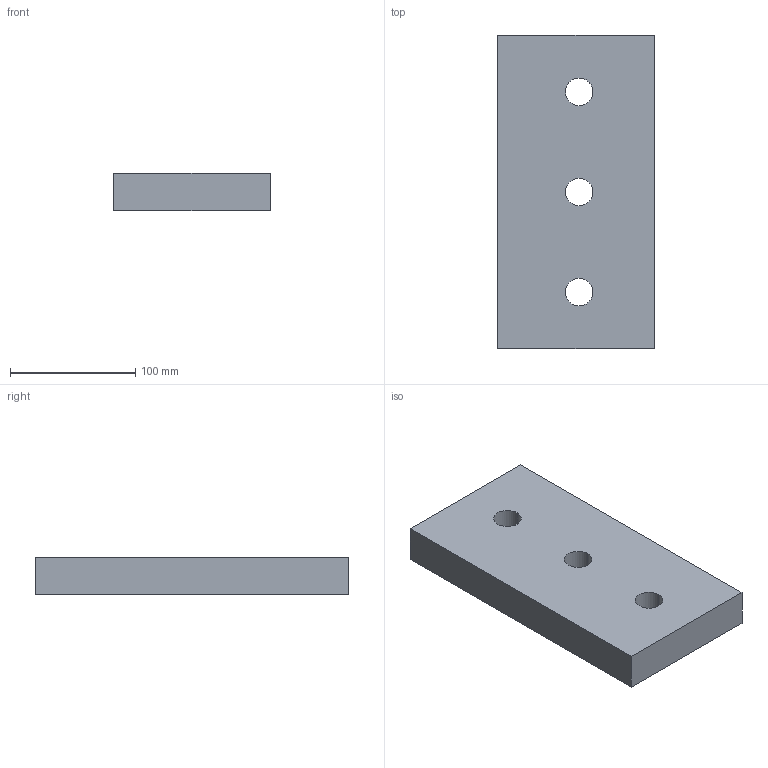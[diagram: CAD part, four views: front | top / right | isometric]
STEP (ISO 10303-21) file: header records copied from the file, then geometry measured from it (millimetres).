
FILE_DESCRIPTION (( 'STEP AP214' ), '1' );
FILE_NAME ('SW225-09-125x250.STEP', '2020-10-27T08:55:49', ( 'August' ), ( '' ), 'SwSTEP 2.0', 'SolidWorks 2018', '' );
FILE_SCHEMA (( 'AUTOMOTIVE_DESIGN' ));
Length unit declared in the file: millimetre
Products named in the file (1): SW225-09-125x250
Bounding box: 125 x 250 x 30 mm (x, y, z)
Volume: 903288.1 mm3; surface area: 88939.6 mm2
Topology: 1 solids, 1 shells, 12 faces, 30 edges, 20 vertices
Faces by surface type: cylinder 6, plane 6
Entity records: 412 total; most frequent: DIRECTION 68, CARTESIAN_POINT 63, ORIENTED_EDGE 60, EDGE_CURVE 30, AXIS2_PLACEMENT_3D 25, VERTEX_POINT 20, LINE 18, EDGE_LOOP 18
